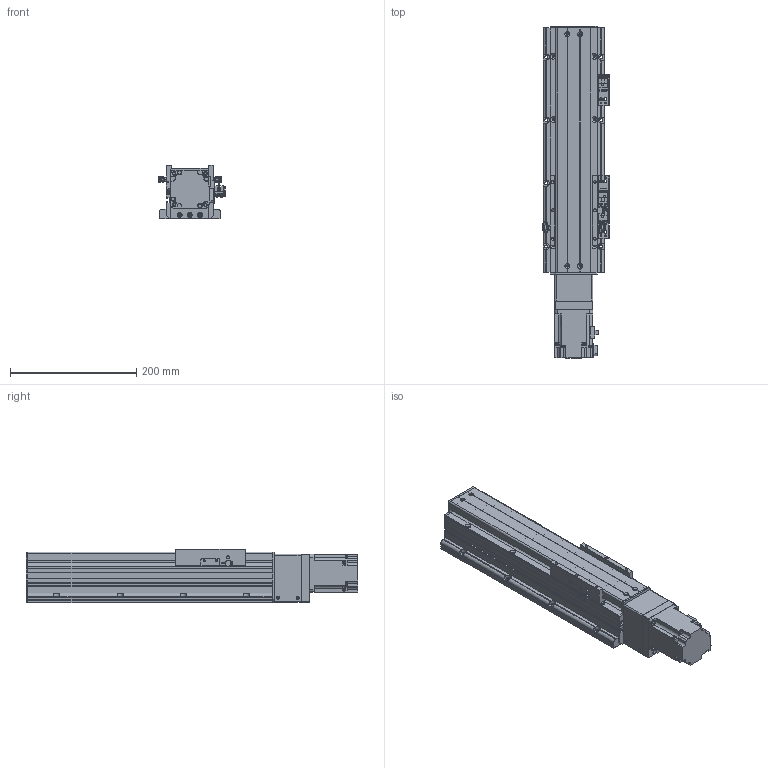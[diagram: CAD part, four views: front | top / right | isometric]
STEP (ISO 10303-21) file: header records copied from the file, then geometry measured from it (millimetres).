
FILE_DESCRIPTION(/* description */ ('MANUFACTURE'),/* implementation_level */ '2;1');
FILE_NAME(/* name */ '\\192.168.0.160\disk1\HAN SHIN Master\B-설계부문\C-표준\B-2024년\BC02-표준도면\+로봇 개선표준도면\표준 승인도 폴더 - 재작업\3D\HS Type\HS75\S-Type\HS75-S20-N1B-0200-R10.stp',/* time_stamp */ '2024-05-08T14:15:45+09:00',/* author */ ('User'),/* organization */ (''),/* preprocessor_version */ 'ST-DEVELOPER v18.1',/* originating_system */ 'Autodesk Inventor 2022',/* authorisation */ 'LIP');
FILE_SCHEMA (('AUTOMOTIVE_DESIGN { 1 0 10303 214 3 1 1 }'));
Products named in the file (28): HS75-S20-N1B-0500-R10 - 간소화; HS75 100W S BASE; UPCOVER; HS75 REAR BLOCK; SDWA-31C-10x14(00-00); HS75 FRONT BLOCK-AN; HS75 FRONT BLOCK; 7001ADF; BEARING COVER(∅15); SPACER(∅15); RN12; HS75 FRONT COVER; HS75 FRONT COVER_1; COUPLING COVER; HS75 SIDE COVER; HS75 SENSOR DOG-1; NIPPLE CAP(신규); hsr_ftht_A-M6F_grease_nipple_joint; SENSOR BRK(EE-SX674A); EE_SX674A; M3-5(렌치볼트); HG75 S MOTOR PLATE-B; HG75 S MOTOR PLATE-M; hg-kr23_; HG90STOPPER - 17L; LMKE1520 NUT; HS75 TABLE - 1BLOCK; HS75 SIDE COVER (100W, 1B)_MIR
Assembly tree (37 placements, depth 3):
  HS75-S20-N1B-0500-R10 - 간소화
    HS75 100W S BASE
    UPCOVER
    HS75 REAR BLOCK
    SDWA-31C-10x14(00-00)
    HS75 FRONT BLOCK-AN
      HS75 FRONT BLOCK
      7001ADF
      BEARING COVER(∅15)
      SPACER(∅15)
      RN12
    HS75 FRONT COVER
    HS75 FRONT COVER_1
    HG90STOPPER - 17L  x2
    COUPLING COVER
    SENSOR BRK(EE-SX674A)  x3
    EE_SX674A  x3
    hsr_ftht_A-M6F_grease_nipple_joint  x2
    NIPPLE CAP(신규)  x2
    HS75 SIDE COVER
    HS75 SENSOR DOG-1
    M3-5(렌치볼트)  x4
    HG75 S MOTOR PLATE-B
    HG75 S MOTOR PLATE-M
    hg-kr23_
    LMKE1520 NUT
    HS75 TABLE - 1BLOCK
    HS75 SIDE COVER (100W, 1B)_MIR
Bounding box: 105.96 x 525.6 x 85 mm (x, y, z)
Volume: 1553770.8 mm3; surface area: 529088.5 mm2
Topology: 59 solids, 59 shells, 2061 faces, 5656 edges, 3694 vertices
Faces by surface type: plane 1028, cylinder 719, cone 194, torus 74, sphere 38, bspline 8
Full cylindrical faces by diameter (mm): 2.013 x2, 2.459 x20, 2.85 x4, 3 x12, 3.1 x1, 3.242 x48, 3.3 x2, 3.5 x6, 4 x18, 4.134 x38, 4.5 x41, 4.917 x9, 5 x28, 5.5 x16, 5.6 x10, 5.8 x4, 5.9 x10, 6 x6, 6.05 x4, 6.45 x6, 6.5 x4, 7.2 x2, 7.5 x4, 8 x7, 9.5 x10, 10 x1, 10.8 x1, 12 x3, 14 x2, 14.4 x3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
Entity records: 60404 total; most frequent: CARTESIAN_POINT 12656, DIRECTION 9954, ORIENTED_EDGE 9536, EDGE_CURVE 4768, AXIS2_PLACEMENT_3D 3664, VERTEX_POINT 3260, LINE 2626, VECTOR 2626
